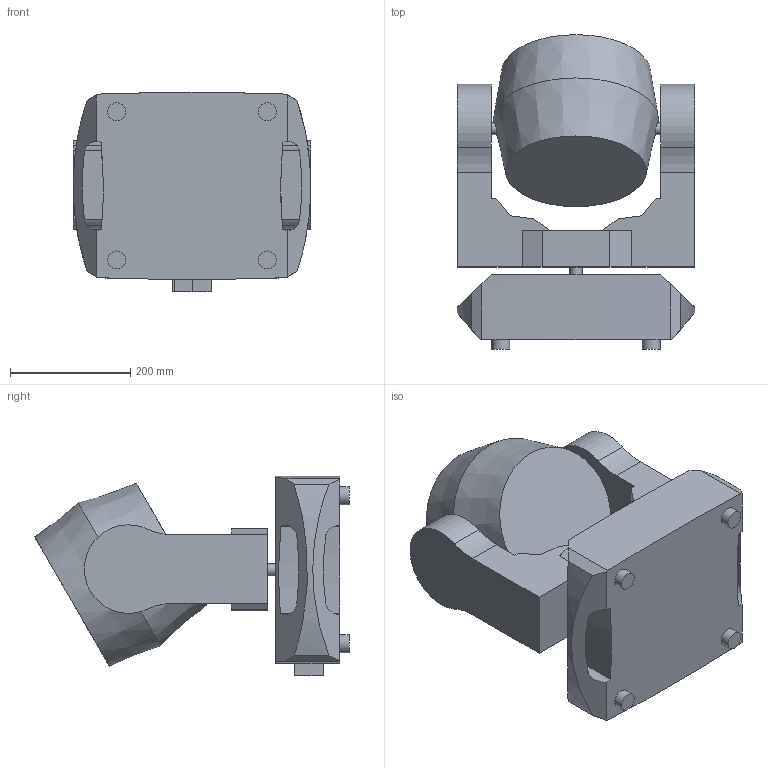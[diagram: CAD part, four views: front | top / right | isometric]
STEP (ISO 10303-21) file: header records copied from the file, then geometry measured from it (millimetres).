
FILE_DESCRIPTION(/* description */ (''),/* implementation_level */ '2;1');
FILE_NAME(/* name */ 'D:/dgooch/Documents/CADENG/PRO/MK Storm Wash/CAD_Simp/30/Maverick_Storm_1_Wash_30.step',/* time_stamp */ '2019-03-18T09:40:30-04:00',/* author */ (''),/* organization */ (''),/* preprocessor_version */ 'ST-DEVELOPER v17.2',/* originating_system */ 'Autodesk Translation Framework v7.6.0.251',/* authorisation */ '');
FILE_SCHEMA (('AUTOMOTIVE_DESIGN { 1 0 10303 214 3 1 1 }'));
Length unit declared in the file: millimetre
Products named in the file (4): Maverick_Storm_1_Wash; Head (1); Arms; Base
Assembly tree (3 placements, depth 2):
  Maverick_Storm_1_Wash
    Head (1)
    Arms
    Base
Bounding box: 394.98 x 522.34 x 330.91 mm (x, y, z)
Volume: 27152618.2 mm3; surface area: 1001242.2 mm2
Topology: 4 solids, 4 shells, 80 faces, 208 edges, 140 vertices
Faces by surface type: plane 48, cylinder 29, cone 2, bspline 1
Full cylindrical faces by diameter (mm): 20 x4, 30 x4, 219.973 x1
Entity records: 2686 total; most frequent: CARTESIAN_POINT 530, DIRECTION 444, ORIENTED_EDGE 416, EDGE_CURVE 208, AXIS2_PLACEMENT_3D 158, VERTEX_POINT 140, LINE 128, VECTOR 128
